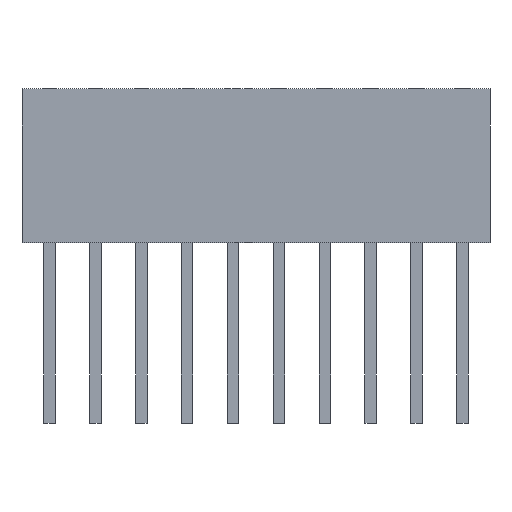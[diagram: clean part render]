
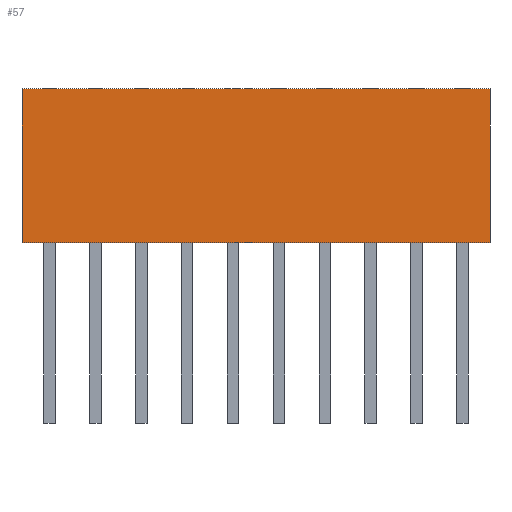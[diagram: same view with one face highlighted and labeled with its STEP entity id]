
A CAD part, front view. The second image highlights one B-rep face of the part: STEP entity #57.
In plain terms, the highlighted planar face has unit normal (0, -1, 0).
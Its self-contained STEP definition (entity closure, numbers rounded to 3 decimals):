
#21 = EDGE_CURVE('',#22,#24,#26,.T.);
#22 = VERTEX_POINT('',#23);
#23 = CARTESIAN_POINT('',(17.297,-3.732,0.));
#24 = VERTEX_POINT('',#25);
#25 = CARTESIAN_POINT('',(17.297,-3.732,8.51));
#26 = LINE('',#27,#28);
#27 = CARTESIAN_POINT('',(17.297,-3.732,0.));
#28 = VECTOR('',#29,1.);
#29 = DIRECTION('',(0.,0.,1.));
#57 = ADVANCED_FACE('',(#58),#83,.F.);
#58 = FACE_BOUND('',#59,.F.);
#59 = EDGE_LOOP('',(#60,#68,#69,#77));
#60 = ORIENTED_EDGE('',*,*,#61,.F.);
#61 = EDGE_CURVE('',#22,#62,#64,.T.);
#62 = VERTEX_POINT('',#63);
#63 = CARTESIAN_POINT('',(43.207,-3.732,0.));
#64 = LINE('',#65,#66);
#65 = CARTESIAN_POINT('',(17.297,-3.732,0.));
#66 = VECTOR('',#67,1.);
#67 = DIRECTION('',(1.,0.,-0.));
#68 = ORIENTED_EDGE('',*,*,#21,.T.);
#69 = ORIENTED_EDGE('',*,*,#70,.T.);
#70 = EDGE_CURVE('',#24,#71,#73,.T.);
#71 = VERTEX_POINT('',#72);
#72 = CARTESIAN_POINT('',(43.207,-3.732,8.51));
#73 = LINE('',#74,#75);
#74 = CARTESIAN_POINT('',(17.297,-3.732,8.51));
#75 = VECTOR('',#76,1.);
#76 = DIRECTION('',(1.,0.,-0.));
#77 = ORIENTED_EDGE('',*,*,#78,.F.);
#78 = EDGE_CURVE('',#62,#71,#79,.T.);
#79 = LINE('',#80,#81);
#80 = CARTESIAN_POINT('',(43.207,-3.732,0.));
#81 = VECTOR('',#82,1.);
#82 = DIRECTION('',(0.,0.,1.));
#83 = PLANE('',#84);
#84 = AXIS2_PLACEMENT_3D('',#85,#86,#87);
#85 = CARTESIAN_POINT('',(17.297,-3.732,0.));
#86 = DIRECTION('',(-0.,1.,0.));
#87 = DIRECTION('',(0.,0.,1.));
